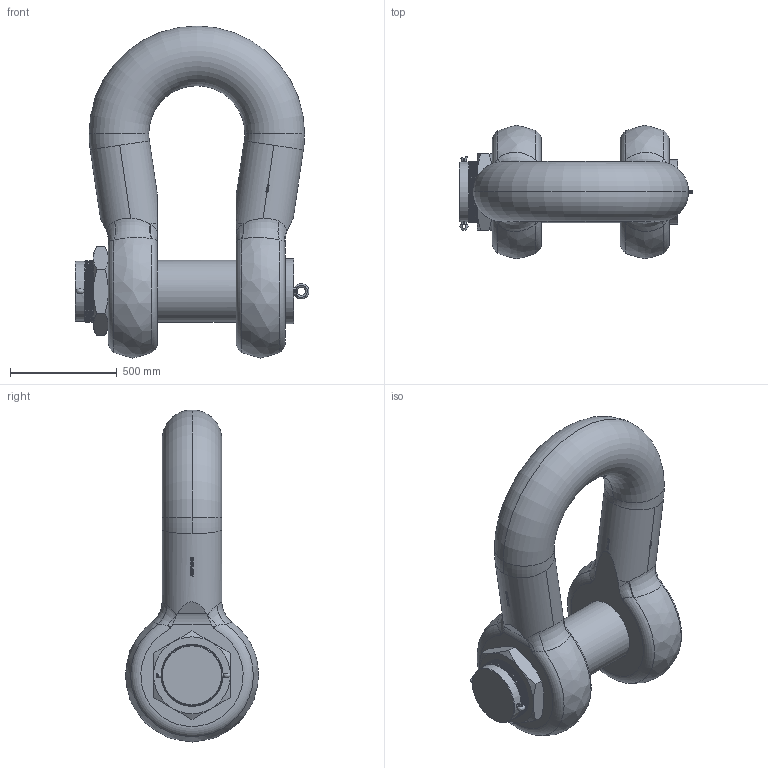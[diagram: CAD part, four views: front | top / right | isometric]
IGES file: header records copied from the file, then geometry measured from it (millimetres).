
Global section: file name: No Iges File Name specified; native system: Autodesk Inventor 2009; preprocessor: AutoDesk Inventor Iges Exporter R2009; author: Jack; date: 20091212.144123; units: millimetre
Bounding box: 1096 x 625 x 1555.49 mm (x, y, z)
Volume: 293645394 mm3; surface area: 5173876.3 mm2
Topology: 5 solids, 5 shells, 858 faces, 2302 edges, 1511 vertices
Faces by surface type: plane 412, bspline 253, cylinder 115, revolution 36, torus 22, cone 20
Full cylindrical faces by diameter (mm): 290 x20
